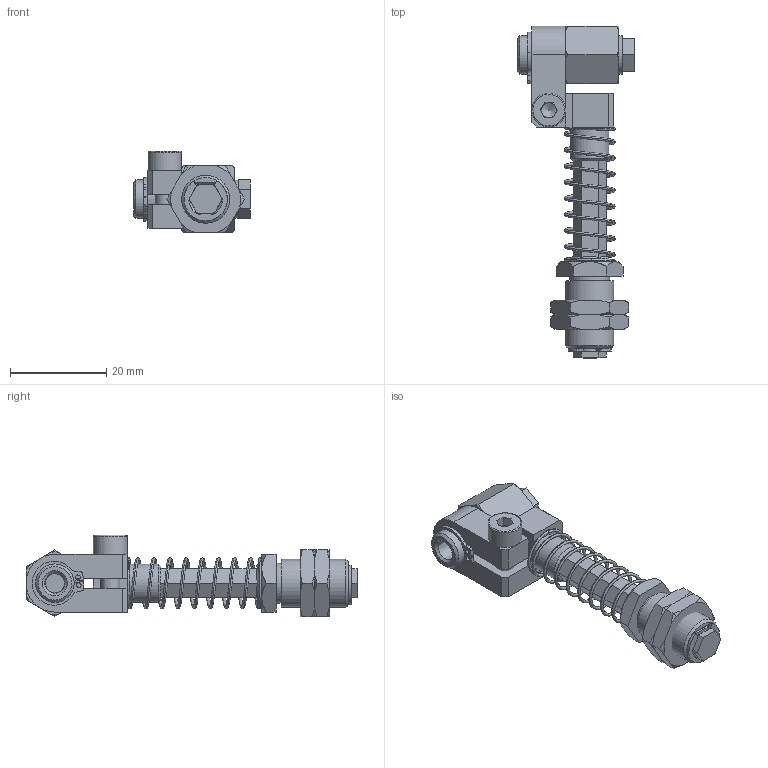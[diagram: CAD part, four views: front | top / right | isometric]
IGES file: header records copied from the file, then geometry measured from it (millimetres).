
Start section: SolidWorks IGES file using analytic representation for surfaces
Global section: file name: C:\Users\star054c\Desktop\3D データ(12.11)\210992\210992.IGS,15; native system: HSolidWorks 2013; preprocessor: SolidWorks 2013; author: STAR054C; date: 131213.155102; units: millimetre
Bounding box: 24.3 x 69 x 17 mm (x, y, z)
Surface area: 7867 mm2 (no closed solid volume)
Topology: 0 solids, 0 shells, 283 faces, 1513 edges, 1441 vertices
Faces by surface type: bspline 157, revolution 126
